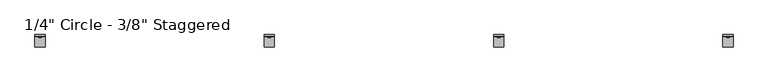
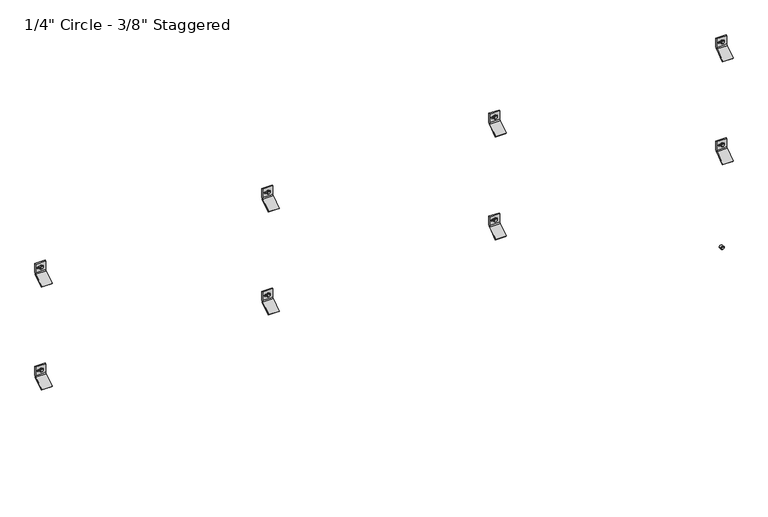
"""IFC4 building model written with IfcOpenShell, lengths in millimetres: plate geometry."""

from ifc_helpers import new_model, si_unit, point, frame, frame_2d, origin, place, context, project, spatial, polyline, circle_curve, trimmed, segment, composite_curve, outline, extrude, source, transform, mapped, element, save
from ifc_brep_helpers import plane_surface, cylinder_surface, revolved_surface, advanced_brep


def plate_bebbbf79(model_context):
    return source(origin(), model_context, "Body", "SolidModel", [
        extrude(outline(polyline([(1395.4295323, 1273.4858014), (1391.0838197, 1275.9947997), (1391.0838197, 1281.0127963), (1395.4295323, 1283.5217946), (1399.7752448, 1281.0127963), (1399.7752448, 1275.9947997), (1395.4295323, 1273.4858014)])), frame((0.0, -58.7607779, 0.0), z_axis=(0.0, 1.0, 0.0), x_axis=(0.0, 0.0, 1.0)), (0.0, 0.0, 1.0), 11.1357779),
        extrude(outline(composite_curve([segment(trimmed(circle_curve(frame_2d((1395.5228392, 1278.503798)), 6.35), [point((1395.5228392, 1284.853798))], [point((1395.5228392, 1272.153798))], False, "CARTESIAN"), True, "CONTINUOUS"), segment(trimmed(circle_curve(frame_2d((1395.5228392, 1278.503798)), 6.35), [point((1395.5228392, 1272.153798))], [point((1395.5228392, 1284.853798))], False, "CARTESIAN"), True, "CONTINUOUS")], self_intersect=False)), frame((0.0, -57.0817743, 0.0), z_axis=(0.0, 1.0, 0.0), x_axis=(0.0, 0.0, 1.0)), (0.0, 0.0, 1.0), 9.4567743),
        advanced_brep(
        [(1259.453798, -47.625, 1378.2802202), (1259.453798, -51.2819443, 1370.6181877), (1259.453798, -89.5163624, 1343.84616), (1259.453798, -92.9330442, 1347.2628418), (1259.453798, -54.3526876, 1374.2770983), (1259.453798, -52.4002, 1378.2802911), (1259.453798, -52.4002, 1412.4729053), (1259.453798, -47.625, 1412.4729053), (1297.553798, -47.625, 1378.2802202), (1297.553798, -47.625, 1412.4729053), (1297.553798, -52.4002, 1412.4729053), (1297.553798, -52.4002, 1378.2802911), (1297.553798, -54.3526876, 1374.2770983), (1297.553798, -92.9330442, 1347.2628418), (1297.553798, -89.5163624, 1343.84616), (1297.553798, -51.2819443, 1370.6181877), (1285.2449869, -52.4002, 1398.4276891), (1285.2449869, -52.4002, 1392.0776891), (1269.0171267, -52.4002, 1392.0776891), (1269.0171267, -52.4002, 1398.4276891), (1285.2449869, -47.625, 1392.0776891), (1285.2449869, -47.625, 1398.4276891), (1269.0171267, -47.625, 1398.4276891), (1269.0171267, -47.625, 1392.0776891)],
        [
            (0, 1, circle_curve(frame((1259.453798, -57.4802202, 1378.2802202), z_axis=(-1.0, 0.0, 0.0), x_axis=(0.0, -1.0, 0.0)), 9.8552202)),
            (1, 2),
            (2, 3),
            (3, 4),
            (4, 5, circle_curve(frame((1259.453798, -57.4803246, 1378.2802911), z_axis=(1.0, 0.0, 0.0), x_axis=(0.0, -1.0, 0.0)), 5.0801246)),
            (5, 6),
            (6, 7),
            (7, 0),
            (8, 9),
            (9, 10),
            (10, 11),
            (11, 12, circle_curve(frame((1297.553798, -57.4803246, 1378.2802911), z_axis=(-1.0, 0.0, 0.0), x_axis=(0.0, -1.0, 0.0)), 5.0801246)),
            (12, 13),
            (13, 14),
            (14, 15),
            (15, 8, circle_curve(frame((1297.553798, -57.4802202, 1378.2802202), z_axis=(1.0, 0.0, 0.0), x_axis=(0.0, -1.0, 0.0)), 9.8552202)),
            (4, 12),
            (11, 5),
            (10, 6),
            (16, 17, circle_curve(frame((1285.2449869, -52.4002, 1395.2526891), z_axis=(0.0, 1.0, 0.0), x_axis=(0.0, 0.0, -1.0)), 3.175)),
            (17, 18),
            (18, 19, circle_curve(frame((1269.0171267, -52.4002, 1395.2526891), z_axis=(0.0, 1.0, 0.0), x_axis=(0.0, 0.0, -1.0)), 3.175)),
            (19, 16),
            (9, 7),
            (8, 0),
            (20, 21, circle_curve(frame((1285.2449869, -47.625, 1395.2526891), z_axis=(0.0, -1.0, 0.0), x_axis=(0.0, 0.0, -1.0)), 3.175)),
            (21, 22),
            (22, 23, circle_curve(frame((1269.0171267, -47.625, 1395.2526891), z_axis=(0.0, -1.0, 0.0), x_axis=(0.0, 0.0, -1.0)), 3.175)),
            (23, 20),
            (15, 1),
            (20, 17),
            (16, 21),
            (19, 22),
            (18, 23),
            (14, 2),
            (13, 3),
        ],
        [
            plane_surface(frame((1259.453798, -67.3354404, 1378.2802202), z_axis=(-1.0, 0.0, 0.0), x_axis=(0.0, 0.0, 1.0))),
            plane_surface(frame((1297.553798, -67.3354404, 1378.2802202), z_axis=(1.0, 0.0, 0.0), x_axis=(0.0, 0.0, -1.0))),
            revolved_surface(polyline([(1297.553798, -62.5604492, 1378.2802911), (1259.453798, -62.5604492, 1378.2802911)]), (1297.553798, -57.4803246, 1378.2802911), (1.0, 0.0, 0.0)),
            plane_surface(frame((1259.453798, -52.4002, 1378.2802911), z_axis=(0.0, -1.0, 0.0), x_axis=(1.0, 0.0, 0.0))),
            plane_surface(frame((1259.453798, -52.4002, 1412.4729053), z_axis=(0.0, 0.0, 1.0), x_axis=(1.0, 0.0, 0.0))),
            plane_surface(frame((1259.453798, -47.625, 1412.4729053), z_axis=(0.0, 1.0, 6.99569853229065e-12), x_axis=(1.0, 0.0, 0.0))),
            cylinder_surface(frame((1297.553798, -57.4802202, 1378.2802202), z_axis=(-1.0, 0.0, 0.0), x_axis=(0.0, -1.0, 0.0)), 9.8552202),
            revolved_surface(polyline([(1285.2449869, -52.4002, 1392.0776891), (1285.2449869, -47.625, 1392.0776891)]), (1285.2449869, -25.6669948, 1395.2526891), (0.0, -1.0, 0.0)),
            plane_surface(frame((1285.2449869, -86.677982, 1398.4276891), z_axis=(0.0, 0.0, -1.0), x_axis=(0.0, 1.0, 0.0))),
            revolved_surface(polyline([(1269.0171267, -52.4002, 1392.0776891), (1269.0171267, -47.625, 1392.0776891)]), (1269.0171267, -25.6669948, 1395.2526891), (0.0, -1.0, 0.0)),
            plane_surface(frame((1269.0171267, -86.677982, 1392.0776891), z_axis=(-2.7237720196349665e-11, 0.0, 1.0), x_axis=(0.0, 1.0, 0.0))),
            plane_surface(frame((1259.453798, -51.2819443, 1370.6181877), z_axis=(0.0, 0.5735764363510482, -0.8191520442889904), x_axis=(1.0, 0.0, 0.0))),
            plane_surface(frame((1259.453798, -89.5163624, 1343.84616), z_axis=(0.0, -0.7071067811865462, -0.7071067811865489), x_axis=(1.0, 0.0, 0.0))),
            plane_surface(frame((1259.453798, -92.9330442, 1347.2628418), z_axis=(0.0, -0.5735764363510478, 0.8191520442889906), x_axis=(1.0, 0.0, 0.0))),
        ],
        [
            (0, [[1, 2, 3, 4, 5, 6, 7, 8]]),
            (1, [[9, 10, 11, 12, 13, 14, 15, 16]]),
            (2, [[-5, 17, -12, 18]]),
            (3, [[-6, -18, -11, 19], [20, 21, 22, 23]]),
            (4, [[-7, -19, -10, 24]]),
            (5, [[-8, -24, -9, 25], [26, 27, 28, 29]]),
            (6, [[-1, -25, -16, 30]]),
            (7, [[31, -20, 32, -26]]),
            (8, [[-32, -23, 33, -27]]),
            (9, [[-33, -22, 34, -28]]),
            (10, [[-31, -29, -34, -21]]),
            (11, [[-2, -30, -15, 35]]),
            (12, [[-3, -35, -14, 36]]),
            (13, [[-4, -36, -13, -17]]),
        ],
    ),
        extrude(outline(polyline([(1395.4295323, 421.1499361), (1391.0838197, 423.6589344), (1391.0838197, 428.676931), (1395.4295323, 431.1859292), (1399.7752448, 428.676931), (1399.7752448, 423.6589344), (1395.4295323, 421.1499361)])), frame((0.0, -58.7607779, 0.0), z_axis=(0.0, 1.0, 0.0), x_axis=(0.0, 0.0, 1.0)), (0.0, 0.0, 1.0), 11.1357779),
        extrude(outline(composite_curve([segment(trimmed(circle_curve(frame_2d((1395.5228392, 426.1679327)), 6.35), [point((1395.5228392, 432.5179327))], [point((1395.5228392, 419.8179327))], False, "CARTESIAN"), True, "CONTINUOUS"), segment(trimmed(circle_curve(frame_2d((1395.5228392, 426.1679327)), 6.35), [point((1395.5228392, 419.8179327))], [point((1395.5228392, 432.5179327))], False, "CARTESIAN"), True, "CONTINUOUS")], self_intersect=False)), frame((0.0, -57.0817743, 0.0), z_axis=(0.0, 1.0, 0.0), x_axis=(0.0, 0.0, 1.0)), (0.0, 0.0, 1.0), 9.4567743),
        advanced_brep(
        [(407.1179327, -47.625, 1378.2802202), (407.1179327, -51.2819443, 1370.6181877), (407.1179327, -89.5163624, 1343.84616), (407.1179327, -92.9330442, 1347.2628418), (407.1179327, -54.3526876, 1374.2770983), (407.1179327, -52.4002, 1378.2802911), (407.1179327, -52.4002, 1412.4729053), (407.1179327, -47.625, 1412.4729053), (445.2179327, -47.625, 1378.2802202), (445.2179327, -47.625, 1412.4729053), (445.2179327, -52.4002, 1412.4729053), (445.2179327, -52.4002, 1378.2802911), (445.2179327, -54.3526876, 1374.2770983), (445.2179327, -92.9330442, 1347.2628418), (445.2179327, -89.5163624, 1343.84616), (445.2179327, -51.2819443, 1370.6181877), (432.9091216, -52.4002, 1398.4276891), (432.9091216, -52.4002, 1392.0776891), (416.6812614, -52.4002, 1392.0776891), (416.6812614, -52.4002, 1398.4276891), (432.9091216, -47.625, 1392.0776891), (432.9091216, -47.625, 1398.4276891), (416.6812614, -47.625, 1398.4276891), (416.6812614, -47.625, 1392.0776891)],
        [
            (0, 1, circle_curve(frame((407.1179327, -57.4802202, 1378.2802202), z_axis=(-1.0, 0.0, 0.0), x_axis=(0.0, -1.0, 0.0)), 9.8552202)),
            (1, 2),
            (2, 3),
            (3, 4),
            (4, 5, circle_curve(frame((407.1179327, -57.4803246, 1378.2802911), z_axis=(1.0, 0.0, 0.0), x_axis=(0.0, -1.0, 0.0)), 5.0801246)),
            (5, 6),
            (6, 7),
            (7, 0),
            (8, 9),
            (9, 10),
            (10, 11),
            (11, 12, circle_curve(frame((445.2179327, -57.4803246, 1378.2802911), z_axis=(-1.0, 0.0, 0.0), x_axis=(0.0, -1.0, 0.0)), 5.0801246)),
            (12, 13),
            (13, 14),
            (14, 15),
            (15, 8, circle_curve(frame((445.2179327, -57.4802202, 1378.2802202), z_axis=(1.0, 0.0, 0.0), x_axis=(0.0, -1.0, 0.0)), 9.8552202)),
            (4, 12),
            (11, 5),
            (10, 6),
            (16, 17, circle_curve(frame((432.9091216, -52.4002, 1395.2526891), z_axis=(0.0, 1.0, 0.0), x_axis=(0.0, 0.0, -1.0)), 3.175)),
            (17, 18),
            (18, 19, circle_curve(frame((416.6812614, -52.4002, 1395.2526891), z_axis=(0.0, 1.0, 0.0), x_axis=(0.0, 0.0, -1.0)), 3.175)),
            (19, 16),
            (9, 7),
            (8, 0),
            (20, 21, circle_curve(frame((432.9091216, -47.625, 1395.2526891), z_axis=(0.0, -1.0, 0.0), x_axis=(0.0, 0.0, -1.0)), 3.175)),
            (21, 22),
            (22, 23, circle_curve(frame((416.6812614, -47.625, 1395.2526891), z_axis=(0.0, -1.0, 0.0), x_axis=(0.0, 0.0, -1.0)), 3.175)),
            (23, 20),
            (15, 1),
            (20, 17),
            (16, 21),
            (19, 22),
            (18, 23),
            (14, 2),
            (13, 3),
        ],
        [
            plane_surface(frame((407.1179327, -67.3354404, 1378.2802202), z_axis=(-1.0, 0.0, 0.0), x_axis=(0.0, 0.0, 1.0))),
            plane_surface(frame((445.2179327, -67.3354404, 1378.2802202), z_axis=(1.0, 0.0, 0.0), x_axis=(0.0, 0.0, -1.0))),
            revolved_surface(polyline([(445.2179327, -62.5604492, 1378.2802911), (407.1179327, -62.5604492, 1378.2802911)]), (445.2179327, -57.4803246, 1378.2802911), (1.0, 0.0, 0.0)),
            plane_surface(frame((407.1179327, -52.4002, 1378.2802911), z_axis=(0.0, -1.0, 0.0), x_axis=(1.0, 0.0, 0.0))),
            plane_surface(frame((407.1179327, -52.4002, 1412.4729053), z_axis=(0.0, 0.0, 1.0), x_axis=(1.0, 0.0, 0.0))),
            plane_surface(frame((407.1179327, -47.625, 1412.4729053), z_axis=(0.0, 1.0, 6.99569853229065e-12), x_axis=(1.0, 0.0, 0.0))),
            cylinder_surface(frame((445.2179327, -57.4802202, 1378.2802202), z_axis=(-1.0, 0.0, 0.0), x_axis=(0.0, -1.0, 0.0)), 9.8552202),
            revolved_surface(polyline([(432.9091216, -52.4002, 1392.0776891), (432.9091216, -47.625, 1392.0776891)]), (432.9091216, -25.6669948, 1395.2526891), (0.0, -1.0, 0.0)),
            plane_surface(frame((432.9091216, -86.677982, 1398.4276891), z_axis=(0.0, 0.0, -1.0), x_axis=(0.0, 1.0, 0.0))),
            revolved_surface(polyline([(416.6812614, -52.4002, 1392.0776891), (416.6812614, -47.625, 1392.0776891)]), (416.6812614, -25.6669948, 1395.2526891), (0.0, -1.0, 0.0)),
            plane_surface(frame((416.6812614, -86.677982, 1392.0776891), z_axis=(-2.7237720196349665e-11, 0.0, 1.0), x_axis=(0.0, 1.0, 0.0))),
            plane_surface(frame((407.1179327, -51.2819443, 1370.6181877), z_axis=(0.0, 0.5735764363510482, -0.8191520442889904), x_axis=(1.0, 0.0, 0.0))),
            plane_surface(frame((407.1179327, -89.5163624, 1343.84616), z_axis=(0.0, -0.7071067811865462, -0.7071067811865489), x_axis=(1.0, 0.0, 0.0))),
            plane_surface(frame((407.1179327, -92.9330442, 1347.2628418), z_axis=(0.0, -0.5735764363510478, 0.8191520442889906), x_axis=(1.0, 0.0, 0.0))),
        ],
        [
            (0, [[1, 2, 3, 4, 5, 6, 7, 8]]),
            (1, [[9, 10, 11, 12, 13, 14, 15, 16]]),
            (2, [[-5, 17, -12, 18]]),
            (3, [[-6, -18, -11, 19], [20, 21, 22, 23]]),
            (4, [[-7, -19, -10, 24]]),
            (5, [[-8, -24, -9, 25], [26, 27, 28, 29]]),
            (6, [[-1, -25, -16, 30]]),
            (7, [[31, -20, 32, -26]]),
            (8, [[-32, -23, 33, -27]]),
            (9, [[-33, -22, 34, -28]]),
            (10, [[-31, -29, -34, -21]]),
            (11, [[-2, -30, -15, 35]]),
            (12, [[-3, -35, -14, 36]]),
            (13, [[-4, -36, -13, -17]]),
        ],
    ),
        extrude(outline(polyline([(1395.4295323, -431.1859292), (1391.0838197, -428.676931), (1391.0838197, -423.6589344), (1395.4295323, -421.1499361), (1399.7752448, -423.6589344), (1399.7752448, -428.676931), (1395.4295323, -431.1859292)])), frame((0.0, -58.7607779, 0.0), z_axis=(0.0, 1.0, 0.0), x_axis=(0.0, 0.0, 1.0)), (0.0, 0.0, 1.0), 11.1357779),
        extrude(outline(composite_curve([segment(trimmed(circle_curve(frame_2d((1395.5228392, -426.1679327)), 6.35), [point((1395.5228392, -419.8179327))], [point((1395.5228392, -432.5179327))], False, "CARTESIAN"), True, "CONTINUOUS"), segment(trimmed(circle_curve(frame_2d((1395.5228392, -426.1679327)), 6.35), [point((1395.5228392, -432.5179327))], [point((1395.5228392, -419.8179327))], False, "CARTESIAN"), True, "CONTINUOUS")], self_intersect=False)), frame((0.0, -57.0817743, 0.0), z_axis=(0.0, 1.0, 0.0), x_axis=(0.0, 0.0, 1.0)), (0.0, 0.0, 1.0), 9.4567743),
        advanced_brep(
        [(-445.2179327, -47.625, 1378.2802202), (-445.2179327, -51.2819443, 1370.6181877), (-445.2179327, -89.5163624, 1343.84616), (-445.2179327, -92.9330442, 1347.2628418), (-445.2179327, -54.3526876, 1374.2770983), (-445.2179327, -52.4002, 1378.2802911), (-445.2179327, -52.4002, 1412.4729053), (-445.2179327, -47.625, 1412.4729053), (-407.1179327, -47.625, 1378.2802202), (-407.1179327, -47.625, 1412.4729053), (-407.1179327, -52.4002, 1412.4729053), (-407.1179327, -52.4002, 1378.2802911), (-407.1179327, -54.3526876, 1374.2770983), (-407.1179327, -92.9330442, 1347.2628418), (-407.1179327, -89.5163624, 1343.84616), (-407.1179327, -51.2819443, 1370.6181877), (-419.4267438, -52.4002, 1398.4276891), (-419.4267438, -52.4002, 1392.0776891), (-435.654604, -52.4002, 1392.0776891), (-435.654604, -52.4002, 1398.4276891), (-419.4267438, -47.625, 1392.0776891), (-419.4267438, -47.625, 1398.4276891), (-435.654604, -47.625, 1398.4276891), (-435.654604, -47.625, 1392.0776891)],
        [
            (0, 1, circle_curve(frame((-445.2179327, -57.4802202, 1378.2802202), z_axis=(-1.0, 0.0, 0.0), x_axis=(0.0, -1.0, 0.0)), 9.8552202)),
            (1, 2),
            (2, 3),
            (3, 4),
            (4, 5, circle_curve(frame((-445.2179327, -57.4803246, 1378.2802911), z_axis=(1.0, 0.0, 0.0), x_axis=(0.0, -1.0, 0.0)), 5.0801246)),
            (5, 6),
            (6, 7),
            (7, 0),
            (8, 9),
            (9, 10),
            (10, 11),
            (11, 12, circle_curve(frame((-407.1179327, -57.4803246, 1378.2802911), z_axis=(-1.0, 0.0, 0.0), x_axis=(0.0, -1.0, 0.0)), 5.0801246)),
            (12, 13),
            (13, 14),
            (14, 15),
            (15, 8, circle_curve(frame((-407.1179327, -57.4802202, 1378.2802202), z_axis=(1.0, 0.0, 0.0), x_axis=(0.0, -1.0, 0.0)), 9.8552202)),
            (4, 12),
            (11, 5),
            (10, 6),
            (16, 17, circle_curve(frame((-419.4267438, -52.4002, 1395.2526891), z_axis=(0.0, 1.0, 0.0), x_axis=(0.0, 0.0, -1.0)), 3.175)),
            (17, 18),
            (18, 19, circle_curve(frame((-435.654604, -52.4002, 1395.2526891), z_axis=(0.0, 1.0, 0.0), x_axis=(0.0, 0.0, -1.0)), 3.175)),
            (19, 16),
            (9, 7),
            (8, 0),
            (20, 21, circle_curve(frame((-419.4267438, -47.625, 1395.2526891), z_axis=(0.0, -1.0, 0.0), x_axis=(0.0, 0.0, -1.0)), 3.175)),
            (21, 22),
            (22, 23, circle_curve(frame((-435.654604, -47.625, 1395.2526891), z_axis=(0.0, -1.0, 0.0), x_axis=(0.0, 0.0, -1.0)), 3.175)),
            (23, 20),
            (15, 1),
            (20, 17),
            (16, 21),
            (19, 22),
            (18, 23),
            (14, 2),
            (13, 3),
        ],
        [
            plane_surface(frame((-445.2179327, -67.3354404, 1378.2802202), z_axis=(-1.0, 0.0, 0.0), x_axis=(0.0, 0.0, 1.0))),
            plane_surface(frame((-407.1179327, -67.3354404, 1378.2802202), z_axis=(1.0, 0.0, 0.0), x_axis=(0.0, 0.0, -1.0))),
            revolved_surface(polyline([(-407.1179327, -62.5604492, 1378.2802911), (-445.2179327, -62.5604492, 1378.2802911)]), (-407.1179327, -57.4803246, 1378.2802911), (1.0, 0.0, 0.0)),
            plane_surface(frame((-445.2179327, -52.4002, 1378.2802911), z_axis=(0.0, -1.0, 0.0), x_axis=(1.0, 0.0, 0.0))),
            plane_surface(frame((-445.2179327, -52.4002, 1412.4729053), z_axis=(0.0, 0.0, 1.0), x_axis=(1.0, 0.0, 0.0))),
            plane_surface(frame((-445.2179327, -47.625, 1412.4729053), z_axis=(0.0, 1.0, 6.99569853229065e-12), x_axis=(1.0, 0.0, 0.0))),
            cylinder_surface(frame((-407.1179327, -57.4802202, 1378.2802202), z_axis=(-1.0, 0.0, 0.0), x_axis=(0.0, -1.0, 0.0)), 9.8552202),
            revolved_surface(polyline([(-419.4267438, -52.4002, 1392.0776891), (-419.4267438, -47.625, 1392.0776891)]), (-419.4267438, -25.6669948, 1395.2526891), (0.0, -1.0, 0.0)),
            plane_surface(frame((-419.4267438, -86.677982, 1398.4276891), z_axis=(0.0, 0.0, -1.0), x_axis=(0.0, 1.0, 0.0))),
            revolved_surface(polyline([(-435.654604, -52.4002, 1392.0776891), (-435.654604, -47.625, 1392.0776891)]), (-435.654604, -25.6669948, 1395.2526891), (0.0, -1.0, 0.0)),
            plane_surface(frame((-435.654604, -86.677982, 1392.0776891), z_axis=(-2.7237720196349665e-11, 0.0, 1.0), x_axis=(0.0, 1.0, 0.0))),
            plane_surface(frame((-445.2179327, -51.2819443, 1370.6181877), z_axis=(0.0, 0.5735764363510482, -0.8191520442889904), x_axis=(1.0, 0.0, 0.0))),
            plane_surface(frame((-445.2179327, -89.5163624, 1343.84616), z_axis=(0.0, -0.7071067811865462, -0.7071067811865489), x_axis=(1.0, 0.0, 0.0))),
            plane_surface(frame((-445.2179327, -92.9330442, 1347.2628418), z_axis=(0.0, -0.5735764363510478, 0.8191520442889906), x_axis=(1.0, 0.0, 0.0))),
        ],
        [
            (0, [[1, 2, 3, 4, 5, 6, 7, 8]]),
            (1, [[9, 10, 11, 12, 13, 14, 15, 16]]),
            (2, [[-5, 17, -12, 18]]),
            (3, [[-6, -18, -11, 19], [20, 21, 22, 23]]),
            (4, [[-7, -19, -10, 24]]),
            (5, [[-8, -24, -9, 25], [26, 27, 28, 29]]),
            (6, [[-1, -25, -16, 30]]),
            (7, [[31, -20, 32, -26]]),
            (8, [[-32, -23, 33, -27]]),
            (9, [[-33, -22, 34, -28]]),
            (10, [[-31, -29, -34, -21]]),
            (11, [[-2, -30, -15, 35]]),
            (12, [[-3, -35, -14, 36]]),
            (13, [[-4, -36, -13, -17]]),
        ],
    ),
        extrude(outline(polyline([(1395.4295323, -1283.5217946), (1391.0838197, -1281.0127963), (1391.0838197, -1275.9947997), (1395.4295323, -1273.4858014), (1399.7752448, -1275.9947997), (1399.7752448, -1281.0127963), (1395.4295323, -1283.5217946)])), frame((0.0, -58.7607779, 0.0), z_axis=(0.0, 1.0, 0.0), x_axis=(0.0, 0.0, 1.0)), (0.0, 0.0, 1.0), 11.1357779),
        extrude(outline(composite_curve([segment(trimmed(circle_curve(frame_2d((1395.5228392, -1278.503798)), 6.35), [point((1395.5228392, -1272.153798))], [point((1395.5228392, -1284.853798))], False, "CARTESIAN"), True, "CONTINUOUS"), segment(trimmed(circle_curve(frame_2d((1395.5228392, -1278.503798)), 6.35), [point((1395.5228392, -1284.853798))], [point((1395.5228392, -1272.153798))], False, "CARTESIAN"), True, "CONTINUOUS")], self_intersect=False)), frame((0.0, -57.0817743, 0.0), z_axis=(0.0, 1.0, 0.0), x_axis=(0.0, 0.0, 1.0)), (0.0, 0.0, 1.0), 9.4567743),
        advanced_brep(
        [(-1297.553798, -47.625, 1378.2802202), (-1297.553798, -51.2819443, 1370.6181877), (-1297.553798, -89.5163624, 1343.84616), (-1297.553798, -92.9330442, 1347.2628418), (-1297.553798, -54.3526876, 1374.2770983), (-1297.553798, -52.4002, 1378.2802911), (-1297.553798, -52.4002, 1412.4729053), (-1297.553798, -47.625, 1412.4729053), (-1259.453798, -47.625, 1378.2802202), (-1259.453798, -47.625, 1412.4729053), (-1259.453798, -52.4002, 1412.4729053), (-1259.453798, -52.4002, 1378.2802911), (-1259.453798, -54.3526876, 1374.2770983), (-1259.453798, -92.9330442, 1347.2628418), (-1259.453798, -89.5163624, 1343.84616), (-1259.453798, -51.2819443, 1370.6181877), (-1271.7626091, -52.4002, 1398.4276891), (-1271.7626091, -52.4002, 1392.0776891), (-1287.9904693, -52.4002, 1392.0776891), (-1287.9904693, -52.4002, 1398.4276891), (-1271.7626091, -47.625, 1392.0776891), (-1271.7626091, -47.625, 1398.4276891), (-1287.9904693, -47.625, 1398.4276891), (-1287.9904693, -47.625, 1392.0776891)],
        [
            (0, 1, circle_curve(frame((-1297.553798, -57.4802202, 1378.2802202), z_axis=(-1.0, 0.0, 0.0), x_axis=(0.0, -1.0, 0.0)), 9.8552202)),
            (1, 2),
            (2, 3),
            (3, 4),
            (4, 5, circle_curve(frame((-1297.553798, -57.4803246, 1378.2802911), z_axis=(1.0, 0.0, 0.0), x_axis=(0.0, -1.0, 0.0)), 5.0801246)),
            (5, 6),
            (6, 7),
            (7, 0),
            (8, 9),
            (9, 10),
            (10, 11),
            (11, 12, circle_curve(frame((-1259.453798, -57.4803246, 1378.2802911), z_axis=(-1.0, 0.0, 0.0), x_axis=(0.0, -1.0, 0.0)), 5.0801246)),
            (12, 13),
            (13, 14),
            (14, 15),
            (15, 8, circle_curve(frame((-1259.453798, -57.4802202, 1378.2802202), z_axis=(1.0, 0.0, 0.0), x_axis=(0.0, -1.0, 0.0)), 9.8552202)),
            (4, 12),
            (11, 5),
            (10, 6),
            (16, 17, circle_curve(frame((-1271.7626091, -52.4002, 1395.2526891), z_axis=(0.0, 1.0, 0.0), x_axis=(0.0, 0.0, -1.0)), 3.175)),
            (17, 18),
            (18, 19, circle_curve(frame((-1287.9904693, -52.4002, 1395.2526891), z_axis=(0.0, 1.0, 0.0), x_axis=(0.0, 0.0, -1.0)), 3.175)),
            (19, 16),
            (9, 7),
            (8, 0),
            (20, 21, circle_curve(frame((-1271.7626091, -47.625, 1395.2526891), z_axis=(0.0, -1.0, 0.0), x_axis=(0.0, 0.0, -1.0)), 3.175)),
            (21, 22),
            (22, 23, circle_curve(frame((-1287.9904693, -47.625, 1395.2526891), z_axis=(0.0, -1.0, 0.0), x_axis=(0.0, 0.0, -1.0)), 3.175)),
            (23, 20),
            (15, 1),
            (20, 17),
            (16, 21),
            (19, 22),
            (18, 23),
            (14, 2),
            (13, 3),
        ],
        [
            plane_surface(frame((-1297.553798, -67.3354404, 1378.2802202), z_axis=(-1.0, 0.0, 0.0), x_axis=(0.0, 0.0, 1.0))),
            plane_surface(frame((-1259.453798, -67.3354404, 1378.2802202), z_axis=(1.0, 0.0, 0.0), x_axis=(0.0, 0.0, -1.0))),
            revolved_surface(polyline([(-1259.453798, -62.5604492, 1378.2802911), (-1297.553798, -62.5604492, 1378.2802911)]), (-1259.453798, -57.4803246, 1378.2802911), (1.0, 0.0, 0.0)),
            plane_surface(frame((-1297.553798, -52.4002, 1378.2802911), z_axis=(0.0, -1.0, 0.0), x_axis=(1.0, 0.0, 0.0))),
            plane_surface(frame((-1297.553798, -52.4002, 1412.4729053), z_axis=(0.0, 0.0, 1.0), x_axis=(1.0, 0.0, 0.0))),
            plane_surface(frame((-1297.553798, -47.625, 1412.4729053), z_axis=(0.0, 1.0, 6.99569853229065e-12), x_axis=(1.0, 0.0, 0.0))),
            cylinder_surface(frame((-1259.453798, -57.4802202, 1378.2802202), z_axis=(-1.0, 0.0, 0.0), x_axis=(0.0, -1.0, 0.0)), 9.8552202),
            revolved_surface(polyline([(-1271.7626091, -52.4002, 1392.0776891), (-1271.7626091, -47.625, 1392.0776891)]), (-1271.7626091, -25.6669948, 1395.2526891), (0.0, -1.0, 0.0)),
            plane_surface(frame((-1271.7626091, -86.677982, 1398.4276891), z_axis=(0.0, 0.0, -1.0), x_axis=(0.0, 1.0, 0.0))),
            revolved_surface(polyline([(-1287.9904693, -52.4002, 1392.0776891), (-1287.9904693, -47.625, 1392.0776891)]), (-1287.9904693, -25.6669948, 1395.2526891), (0.0, -1.0, 0.0)),
            plane_surface(frame((-1287.9904693, -86.677982, 1392.0776891), z_axis=(-2.7237720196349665e-11, 0.0, 1.0), x_axis=(0.0, 1.0, 0.0))),
            plane_surface(frame((-1297.553798, -51.2819443, 1370.6181877), z_axis=(0.0, 0.5735764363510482, -0.8191520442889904), x_axis=(1.0, 0.0, 0.0))),
            plane_surface(frame((-1297.553798, -89.5163624, 1343.84616), z_axis=(0.0, -0.7071067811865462, -0.7071067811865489), x_axis=(1.0, 0.0, 0.0))),
            plane_surface(frame((-1297.553798, -92.9330442, 1347.2628418), z_axis=(0.0, -0.5735764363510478, 0.8191520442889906), x_axis=(1.0, 0.0, 0.0))),
        ],
        [
            (0, [[1, 2, 3, 4, 5, 6, 7, 8]]),
            (1, [[9, 10, 11, 12, 13, 14, 15, 16]]),
            (2, [[-5, 17, -12, 18]]),
            (3, [[-6, -18, -11, 19], [20, 21, 22, 23]]),
            (4, [[-7, -19, -10, 24]]),
            (5, [[-8, -24, -9, 25], [26, 27, 28, 29]]),
            (6, [[-1, -25, -16, 30]]),
            (7, [[31, -20, 32, -26]]),
            (8, [[-32, -23, 33, -27]]),
            (9, [[-33, -22, 34, -28]]),
            (10, [[-31, -29, -34, -21]]),
            (11, [[-2, -30, -15, 35]]),
            (12, [[-3, -35, -14, 36]]),
            (13, [[-4, -36, -13, -17]]),
        ],
    ),
        extrude(outline(polyline([(986.9128656, 1273.4858014), (982.5671531, 1275.9947997), (982.5671531, 1281.0127963), (986.9128656, 1283.5217946), (991.2585781, 1281.0127963), (991.2585781, 1275.9947997), (986.9128656, 1273.4858014)])), frame((0.0, -58.7607779, 0.0), z_axis=(0.0, 1.0, 0.0), x_axis=(0.0, 0.0, 1.0)), (0.0, 0.0, 1.0), 11.1357779),
        extrude(outline(composite_curve([segment(trimmed(circle_curve(frame_2d((987.0061726, 1278.503798)), 6.35), [point((987.0061726, 1284.853798))], [point((987.0061726, 1272.153798))], False, "CARTESIAN"), True, "CONTINUOUS"), segment(trimmed(circle_curve(frame_2d((987.0061726, 1278.503798)), 6.35), [point((987.0061726, 1272.153798))], [point((987.0061726, 1284.853798))], False, "CARTESIAN"), True, "CONTINUOUS")], self_intersect=False)), frame((0.0, -57.0817743, 0.0), z_axis=(0.0, 1.0, 0.0), x_axis=(0.0, 0.0, 1.0)), (0.0, 0.0, 1.0), 9.4567743),
        advanced_brep(
        [(1259.453798, -47.625, 969.7635535), (1259.453798, -51.2819443, 962.1015211), (1259.453798, -89.5163624, 935.3294933), (1259.453798, -92.9330442, 938.7461751), (1259.453798, -54.3526876, 965.7604316), (1259.453798, -52.4002, 969.7636244), (1259.453798, -52.4002, 1003.9562386), (1259.453798, -47.625, 1003.9562386), (1297.553798, -47.625, 969.7635535), (1297.553798, -47.625, 1003.9562386), (1297.553798, -52.4002, 1003.9562386), (1297.553798, -52.4002, 969.7636244), (1297.553798, -54.3526876, 965.7604316), (1297.553798, -92.9330442, 938.7461751), (1297.553798, -89.5163624, 935.3294933), (1297.553798, -51.2819443, 962.1015211), (1285.2449869, -52.4002, 989.9110224), (1285.2449869, -52.4002, 983.5610224), (1269.0171267, -52.4002, 983.5610224), (1269.0171267, -52.4002, 989.9110224), (1285.2449869, -47.625, 983.5610224), (1285.2449869, -47.625, 989.9110224), (1269.0171267, -47.625, 989.9110224), (1269.0171267, -47.625, 983.5610224)],
        [
            (0, 1, circle_curve(frame((1259.453798, -57.4802202, 969.7635535), z_axis=(-1.0, 0.0, 0.0), x_axis=(0.0, -1.0, 0.0)), 9.8552202)),
            (1, 2),
            (2, 3),
            (3, 4),
            (4, 5, circle_curve(frame((1259.453798, -57.4803246, 969.7636244), z_axis=(1.0, 0.0, 0.0), x_axis=(0.0, -1.0, 0.0)), 5.0801246)),
            (5, 6),
            (6, 7),
            (7, 0),
            (8, 9),
            (9, 10),
            (10, 11),
            (11, 12, circle_curve(frame((1297.553798, -57.4803246, 969.7636244), z_axis=(-1.0, 0.0, 0.0), x_axis=(0.0, -1.0, 0.0)), 5.0801246)),
            (12, 13),
            (13, 14),
            (14, 15),
            (15, 8, circle_curve(frame((1297.553798, -57.4802202, 969.7635535), z_axis=(1.0, 0.0, 0.0), x_axis=(0.0, -1.0, 0.0)), 9.8552202)),
            (4, 12),
            (11, 5),
            (10, 6),
            (16, 17, circle_curve(frame((1285.2449869, -52.4002, 986.7360224), z_axis=(0.0, 1.0, 0.0), x_axis=(0.0, 0.0, -1.0)), 3.175)),
            (17, 18),
            (18, 19, circle_curve(frame((1269.0171267, -52.4002, 986.7360224), z_axis=(0.0, 1.0, 0.0), x_axis=(0.0, 0.0, -1.0)), 3.175)),
            (19, 16),
            (9, 7),
            (8, 0),
            (20, 21, circle_curve(frame((1285.2449869, -47.625, 986.7360224), z_axis=(0.0, -1.0, 0.0), x_axis=(0.0, 0.0, -1.0)), 3.175)),
            (21, 22),
            (22, 23, circle_curve(frame((1269.0171267, -47.625, 986.7360224), z_axis=(0.0, -1.0, 0.0), x_axis=(0.0, 0.0, -1.0)), 3.175)),
            (23, 20),
            (15, 1),
            (20, 17),
            (16, 21),
            (19, 22),
            (18, 23),
            (14, 2),
            (13, 3),
        ],
        [
            plane_surface(frame((1259.453798, -67.3354404, 969.7635535), z_axis=(-1.0, 0.0, 0.0), x_axis=(0.0, 0.0, 1.0))),
            plane_surface(frame((1297.553798, -67.3354404, 969.7635535), z_axis=(1.0, 0.0, 0.0), x_axis=(0.0, 0.0, -1.0))),
            revolved_surface(polyline([(1297.553798, -62.5604492, 969.7636244), (1259.453798, -62.5604492, 969.7636244)]), (1297.553798, -57.4803246, 969.7636244), (1.0, 0.0, 0.0)),
            plane_surface(frame((1259.453798, -52.4002, 969.7636244), z_axis=(0.0, -1.0, 0.0), x_axis=(1.0, 0.0, 0.0))),
            plane_surface(frame((1259.453798, -52.4002, 1003.9562386), z_axis=(0.0, 0.0, 1.0), x_axis=(1.0, 0.0, 0.0))),
            plane_surface(frame((1259.453798, -47.625, 1003.9562386), z_axis=(0.0, 1.0, 6.99569853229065e-12), x_axis=(1.0, 0.0, 0.0))),
            cylinder_surface(frame((1297.553798, -57.4802202, 969.7635535), z_axis=(-1.0, 0.0, 0.0), x_axis=(0.0, -1.0, 0.0)), 9.8552202),
            revolved_surface(polyline([(1285.2449869, -52.4002, 983.5610224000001), (1285.2449869, -47.625, 983.5610224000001)]), (1285.2449869, -25.6669948, 986.7360224), (0.0, -1.0, 0.0)),
            plane_surface(frame((1285.2449869, -86.677982, 989.9110224), z_axis=(0.0, 0.0, -1.0), x_axis=(0.0, 1.0, 0.0))),
            revolved_surface(polyline([(1269.0171267, -52.4002, 983.5610224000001), (1269.0171267, -47.625, 983.5610224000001)]), (1269.0171267, -25.6669948, 986.7360224), (0.0, -1.0, 0.0)),
            plane_surface(frame((1269.0171267, -86.677982, 983.5610224), z_axis=(-2.7237766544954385e-11, 0.0, 1.0), x_axis=(0.0, 1.0, 0.0))),
            plane_surface(frame((1259.453798, -51.2819443, 962.1015211), z_axis=(0.0, 0.5735764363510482, -0.8191520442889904), x_axis=(1.0, 0.0, 0.0))),
            plane_surface(frame((1259.453798, -89.5163624, 935.3294933), z_axis=(0.0, -0.7071067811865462, -0.7071067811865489), x_axis=(1.0, 0.0, 0.0))),
            plane_surface(frame((1259.453798, -92.9330442, 938.7461751), z_axis=(0.0, -0.5735764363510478, 0.8191520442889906), x_axis=(1.0, 0.0, 0.0))),
        ],
        [
            (0, [[1, 2, 3, 4, 5, 6, 7, 8]]),
            (1, [[9, 10, 11, 12, 13, 14, 15, 16]]),
            (2, [[-5, 17, -12, 18]]),
            (3, [[-6, -18, -11, 19], [20, 21, 22, 23]]),
            (4, [[-7, -19, -10, 24]]),
            (5, [[-8, -24, -9, 25], [26, 27, 28, 29]]),
            (6, [[-1, -25, -16, 30]]),
            (7, [[31, -20, 32, -26]]),
            (8, [[-32, -23, 33, -27]]),
            (9, [[-33, -22, 34, -28]]),
            (10, [[-31, -29, -34, -21]]),
            (11, [[-2, -30, -15, 35]]),
            (12, [[-3, -35, -14, 36]]),
            (13, [[-4, -36, -13, -17]]),
        ],
    ),
        extrude(outline(polyline([(986.9128656, 421.1499361), (982.5671531, 423.6589344), (982.5671531, 428.676931), (986.9128656, 431.1859292), (991.2585781, 428.676931), (991.2585781, 423.6589344), (986.9128656, 421.1499361)])), frame((0.0, -58.7607779, 0.0), z_axis=(0.0, 1.0, 0.0), x_axis=(0.0, 0.0, 1.0)), (0.0, 0.0, 1.0), 11.1357779),
        extrude(outline(composite_curve([segment(trimmed(circle_curve(frame_2d((987.0061726, 426.1679327)), 6.35), [point((987.0061726, 432.5179327))], [point((987.0061726, 419.8179327))], False, "CARTESIAN"), True, "CONTINUOUS"), segment(trimmed(circle_curve(frame_2d((987.0061726, 426.1679327)), 6.35), [point((987.0061726, 419.8179327))], [point((987.0061726, 432.5179327))], False, "CARTESIAN"), True, "CONTINUOUS")], self_intersect=False)), frame((0.0, -57.0817743, 0.0), z_axis=(0.0, 1.0, 0.0), x_axis=(0.0, 0.0, 1.0)), (0.0, 0.0, 1.0), 9.4567743),
        advanced_brep(
        [(407.1179327, -47.625, 969.7635535), (407.1179327, -51.2819443, 962.1015211), (407.1179327, -89.5163624, 935.3294933), (407.1179327, -92.9330442, 938.7461751), (407.1179327, -54.3526876, 965.7604316), (407.1179327, -52.4002, 969.7636244), (407.1179327, -52.4002, 1003.9562386), (407.1179327, -47.625, 1003.9562386), (445.2179327, -47.625, 969.7635535), (445.2179327, -47.625, 1003.9562386), (445.2179327, -52.4002, 1003.9562386), (445.2179327, -52.4002, 969.7636244), (445.2179327, -54.3526876, 965.7604316), (445.2179327, -92.9330442, 938.7461751), (445.2179327, -89.5163624, 935.3294933), (445.2179327, -51.2819443, 962.1015211), (432.9091216, -52.4002, 989.9110224), (432.9091216, -52.4002, 983.5610224), (416.6812614, -52.4002, 983.5610224), (416.6812614, -52.4002, 989.9110224), (432.9091216, -47.625, 983.5610224), (432.9091216, -47.625, 989.9110224), (416.6812614, -47.625, 989.9110224), (416.6812614, -47.625, 983.5610224)],
        [
            (0, 1, circle_curve(frame((407.1179327, -57.4802202, 969.7635535), z_axis=(-1.0, 0.0, 0.0), x_axis=(0.0, -1.0, 0.0)), 9.8552202)),
            (1, 2),
            (2, 3),
            (3, 4),
            (4, 5, circle_curve(frame((407.1179327, -57.4803246, 969.7636244), z_axis=(1.0, 0.0, 0.0), x_axis=(0.0, -1.0, 0.0)), 5.0801246)),
            (5, 6),
            (6, 7),
            (7, 0),
            (8, 9),
            (9, 10),
            (10, 11),
            (11, 12, circle_curve(frame((445.2179327, -57.4803246, 969.7636244), z_axis=(-1.0, 0.0, 0.0), x_axis=(0.0, -1.0, 0.0)), 5.0801246)),
            (12, 13),
            (13, 14),
            (14, 15),
            (15, 8, circle_curve(frame((445.2179327, -57.4802202, 969.7635535), z_axis=(1.0, 0.0, 0.0), x_axis=(0.0, -1.0, 0.0)), 9.8552202)),
            (4, 12),
            (11, 5),
            (10, 6),
            (16, 17, circle_curve(frame((432.9091216, -52.4002, 986.7360224), z_axis=(0.0, 1.0, 0.0), x_axis=(0.0, 0.0, -1.0)), 3.175)),
            (17, 18),
            (18, 19, circle_curve(frame((416.6812614, -52.4002, 986.7360224), z_axis=(0.0, 1.0, 0.0), x_axis=(0.0, 0.0, -1.0)), 3.175)),
            (19, 16),
            (9, 7),
            (8, 0),
            (20, 21, circle_curve(frame((432.9091216, -47.625, 986.7360224), z_axis=(0.0, -1.0, 0.0), x_axis=(0.0, 0.0, -1.0)), 3.175)),
            (21, 22),
            (22, 23, circle_curve(frame((416.6812614, -47.625, 986.7360224), z_axis=(0.0, -1.0, 0.0), x_axis=(0.0, 0.0, -1.0)), 3.175)),
            (23, 20),
            (15, 1),
            (20, 17),
            (16, 21),
            (19, 22),
            (18, 23),
            (14, 2),
            (13, 3),
        ],
        [
            plane_surface(frame((407.1179327, -67.3354404, 969.7635535), z_axis=(-1.0, 0.0, 0.0), x_axis=(0.0, 0.0, 1.0))),
            plane_surface(frame((445.2179327, -67.3354404, 969.7635535), z_axis=(1.0, 0.0, 0.0), x_axis=(0.0, 0.0, -1.0))),
            revolved_surface(polyline([(445.2179327, -62.5604492, 969.7636244), (407.1179327, -62.5604492, 969.7636244)]), (445.2179327, -57.4803246, 969.7636244), (1.0, 0.0, 0.0)),
            plane_surface(frame((407.1179327, -52.4002, 969.7636244), z_axis=(0.0, -1.0, 0.0), x_axis=(1.0, 0.0, 0.0))),
            plane_surface(frame((407.1179327, -52.4002, 1003.9562386), z_axis=(0.0, 0.0, 1.0), x_axis=(1.0, 0.0, 0.0))),
            plane_surface(frame((407.1179327, -47.625, 1003.9562386), z_axis=(0.0, 1.0, 6.99569853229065e-12), x_axis=(1.0, 0.0, 0.0))),
            cylinder_surface(frame((445.2179327, -57.4802202, 969.7635535), z_axis=(-1.0, 0.0, 0.0), x_axis=(0.0, -1.0, 0.0)), 9.8552202),
            revolved_surface(polyline([(432.9091216, -52.4002, 983.5610224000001), (432.9091216, -47.625, 983.5610224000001)]), (432.9091216, -25.6669948, 986.7360224), (0.0, -1.0, 0.0)),
            plane_surface(frame((432.9091216, -86.677982, 989.9110224), z_axis=(0.0, 0.0, -1.0), x_axis=(0.0, 1.0, 0.0))),
            revolved_surface(polyline([(416.6812614, -52.4002, 983.5610224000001), (416.6812614, -47.625, 983.5610224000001)]), (416.6812614, -25.6669948, 986.7360224), (0.0, -1.0, 0.0)),
            plane_surface(frame((416.6812614, -86.677982, 983.5610224), z_axis=(-2.7237766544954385e-11, 0.0, 1.0), x_axis=(0.0, 1.0, 0.0))),
            plane_surface(frame((407.1179327, -51.2819443, 962.1015211), z_axis=(0.0, 0.5735764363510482, -0.8191520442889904), x_axis=(1.0, 0.0, 0.0))),
            plane_surface(frame((407.1179327, -89.5163624, 935.3294933), z_axis=(0.0, -0.7071067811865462, -0.7071067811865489), x_axis=(1.0, 0.0, 0.0))),
            plane_surface(frame((407.1179327, -92.9330442, 938.7461751), z_axis=(0.0, -0.5735764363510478, 0.8191520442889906), x_axis=(1.0, 0.0, 0.0))),
        ],
        [
            (0, [[1, 2, 3, 4, 5, 6, 7, 8]]),
            (1, [[9, 10, 11, 12, 13, 14, 15, 16]]),
            (2, [[-5, 17, -12, 18]]),
            (3, [[-6, -18, -11, 19], [20, 21, 22, 23]]),
            (4, [[-7, -19, -10, 24]]),
            (5, [[-8, -24, -9, 25], [26, 27, 28, 29]]),
            (6, [[-1, -25, -16, 30]]),
            (7, [[31, -20, 32, -26]]),
            (8, [[-32, -23, 33, -27]]),
            (9, [[-33, -22, 34, -28]]),
            (10, [[-31, -29, -34, -21]]),
            (11, [[-2, -30, -15, 35]]),
            (12, [[-3, -35, -14, 36]]),
            (13, [[-4, -36, -13, -17]]),
        ],
    ),
        extrude(outline(polyline([(986.9128656, -431.1859292), (982.5671531, -428.676931), (982.5671531, -423.6589344), (986.9128656, -421.1499361), (991.2585781, -423.6589344), (991.2585781, -428.676931), (986.9128656, -431.1859292)])), frame((0.0, -58.7607779, 0.0), z_axis=(0.0, 1.0, 0.0), x_axis=(0.0, 0.0, 1.0)), (0.0, 0.0, 1.0), 11.1357779),
        extrude(outline(composite_curve([segment(trimmed(circle_curve(frame_2d((987.0061726, -426.1679327)), 6.35), [point((987.0061726, -419.8179327))], [point((987.0061726, -432.5179327))], False, "CARTESIAN"), True, "CONTINUOUS"), segment(trimmed(circle_curve(frame_2d((987.0061726, -426.1679327)), 6.35), [point((987.0061726, -432.5179327))], [point((987.0061726, -419.8179327))], False, "CARTESIAN"), True, "CONTINUOUS")], self_intersect=False)), frame((0.0, -57.0817743, 0.0), z_axis=(0.0, 1.0, 0.0), x_axis=(0.0, 0.0, 1.0)), (0.0, 0.0, 1.0), 9.4567743),
        advanced_brep(
        [(-445.2179327, -47.625, 969.7635535), (-445.2179327, -51.2819443, 962.1015211), (-445.2179327, -89.5163624, 935.3294933), (-445.2179327, -92.9330442, 938.7461751), (-445.2179327, -54.3526876, 965.7604316), (-445.2179327, -52.4002, 969.7636244), (-445.2179327, -52.4002, 1003.9562386), (-445.2179327, -47.625, 1003.9562386), (-407.1179327, -47.625, 969.7635535), (-407.1179327, -47.625, 1003.9562386), (-407.1179327, -52.4002, 1003.9562386), (-407.1179327, -52.4002, 969.7636244), (-407.1179327, -54.3526876, 965.7604316), (-407.1179327, -92.9330442, 938.7461751), (-407.1179327, -89.5163624, 935.3294933), (-407.1179327, -51.2819443, 962.1015211), (-419.4267438, -52.4002, 989.9110224), (-419.4267438, -52.4002, 983.5610224), (-435.654604, -52.4002, 983.5610224), (-435.654604, -52.4002, 989.9110224), (-419.4267438, -47.625, 983.5610224), (-419.4267438, -47.625, 989.9110224), (-435.654604, -47.625, 989.9110224), (-435.654604, -47.625, 983.5610224)],
        [
            (0, 1, circle_curve(frame((-445.2179327, -57.4802202, 969.7635535), z_axis=(-1.0, 0.0, 0.0), x_axis=(0.0, -1.0, 0.0)), 9.8552202)),
            (1, 2),
            (2, 3),
            (3, 4),
            (4, 5, circle_curve(frame((-445.2179327, -57.4803246, 969.7636244), z_axis=(1.0, 0.0, 0.0), x_axis=(0.0, -1.0, 0.0)), 5.0801246)),
            (5, 6),
            (6, 7),
            (7, 0),
            (8, 9),
            (9, 10),
            (10, 11),
            (11, 12, circle_curve(frame((-407.1179327, -57.4803246, 969.7636244), z_axis=(-1.0, 0.0, 0.0), x_axis=(0.0, -1.0, 0.0)), 5.0801246)),
            (12, 13),
            (13, 14),
            (14, 15),
            (15, 8, circle_curve(frame((-407.1179327, -57.4802202, 969.7635535), z_axis=(1.0, 0.0, 0.0), x_axis=(0.0, -1.0, 0.0)), 9.8552202)),
            (4, 12),
            (11, 5),
            (10, 6),
            (16, 17, circle_curve(frame((-419.4267438, -52.4002, 986.7360224), z_axis=(0.0, 1.0, 0.0), x_axis=(0.0, 0.0, -1.0)), 3.175)),
            (17, 18),
            (18, 19, circle_curve(frame((-435.654604, -52.4002, 986.7360224), z_axis=(0.0, 1.0, 0.0), x_axis=(0.0, 0.0, -1.0)), 3.175)),
            (19, 16),
            (9, 7),
            (8, 0),
            (20, 21, circle_curve(frame((-419.4267438, -47.625, 986.7360224), z_axis=(0.0, -1.0, 0.0), x_axis=(0.0, 0.0, -1.0)), 3.175)),
            (21, 22),
            (22, 23, circle_curve(frame((-435.654604, -47.625, 986.7360224), z_axis=(0.0, -1.0, 0.0), x_axis=(0.0, 0.0, -1.0)), 3.175)),
            (23, 20),
            (15, 1),
            (20, 17),
            (16, 21),
            (19, 22),
            (18, 23),
            (14, 2),
            (13, 3),
        ],
        [
            plane_surface(frame((-445.2179327, -67.3354404, 969.7635535), z_axis=(-1.0, 0.0, 0.0), x_axis=(0.0, 0.0, 1.0))),
            plane_surface(frame((-407.1179327, -67.3354404, 969.7635535), z_axis=(1.0, 0.0, 0.0), x_axis=(0.0, 0.0, -1.0))),
            revolved_surface(polyline([(-407.1179327, -62.5604492, 969.7636244), (-445.2179327, -62.5604492, 969.7636244)]), (-407.1179327, -57.4803246, 969.7636244), (1.0, 0.0, 0.0)),
            plane_surface(frame((-445.2179327, -52.4002, 969.7636244), z_axis=(0.0, -1.0, 0.0), x_axis=(1.0, 0.0, 0.0))),
            plane_surface(frame((-445.2179327, -52.4002, 1003.9562386), z_axis=(0.0, 0.0, 1.0), x_axis=(1.0, 0.0, 0.0))),
            plane_surface(frame((-445.2179327, -47.625, 1003.9562386), z_axis=(0.0, 1.0, 6.99569853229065e-12), x_axis=(1.0, 0.0, 0.0))),
            cylinder_surface(frame((-407.1179327, -57.4802202, 969.7635535), z_axis=(-1.0, 0.0, 0.0), x_axis=(0.0, -1.0, 0.0)), 9.8552202),
            revolved_surface(polyline([(-419.4267438, -52.4002, 983.5610224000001), (-419.4267438, -47.625, 983.5610224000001)]), (-419.4267438, -25.6669948, 986.7360224), (0.0, -1.0, 0.0)),
            plane_surface(frame((-419.4267438, -86.677982, 989.9110224), z_axis=(0.0, 0.0, -1.0), x_axis=(0.0, 1.0, 0.0))),
            revolved_surface(polyline([(-435.654604, -52.4002, 983.5610224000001), (-435.654604, -47.625, 983.5610224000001)]), (-435.654604, -25.6669948, 986.7360224), (0.0, -1.0, 0.0)),
            plane_surface(frame((-435.654604, -86.677982, 983.5610224), z_axis=(-2.7237766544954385e-11, 0.0, 1.0), x_axis=(0.0, 1.0, 0.0))),
            plane_surface(frame((-445.2179327, -51.2819443, 962.1015211), z_axis=(0.0, 0.5735764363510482, -0.8191520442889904), x_axis=(1.0, 0.0, 0.0))),
            plane_surface(frame((-445.2179327, -89.5163624, 935.3294933), z_axis=(0.0, -0.7071067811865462, -0.7071067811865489), x_axis=(1.0, 0.0, 0.0))),
            plane_surface(frame((-445.2179327, -92.9330442, 938.7461751), z_axis=(0.0, -0.5735764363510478, 0.8191520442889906), x_axis=(1.0, 0.0, 0.0))),
        ],
        [
            (0, [[1, 2, 3, 4, 5, 6, 7, 8]]),
            (1, [[9, 10, 11, 12, 13, 14, 15, 16]]),
            (2, [[-5, 17, -12, 18]]),
            (3, [[-6, -18, -11, 19], [20, 21, 22, 23]]),
            (4, [[-7, -19, -10, 24]]),
            (5, [[-8, -24, -9, 25], [26, 27, 28, 29]]),
            (6, [[-1, -25, -16, 30]]),
            (7, [[31, -20, 32, -26]]),
            (8, [[-32, -23, 33, -27]]),
            (9, [[-33, -22, 34, -28]]),
            (10, [[-31, -29, -34, -21]]),
            (11, [[-2, -30, -15, 35]]),
            (12, [[-3, -35, -14, 36]]),
            (13, [[-4, -36, -13, -17]]),
        ],
    ),
        extrude(outline(polyline([(986.9128656, -1283.5217946), (982.5671531, -1281.0127963), (982.5671531, -1275.9947997), (986.9128656, -1273.4858014), (991.2585781, -1275.9947997), (991.2585781, -1281.0127963), (986.9128656, -1283.5217946)])), frame((0.0, -58.7607779, 0.0), z_axis=(0.0, 1.0, 0.0), x_axis=(0.0, 0.0, 1.0)), (0.0, 0.0, 1.0), 11.1357779),
        extrude(outline(composite_curve([segment(trimmed(circle_curve(frame_2d((987.0061726, -1278.503798)), 6.35), [point((987.0061726, -1272.153798))], [point((987.0061726, -1284.853798))], False, "CARTESIAN"), True, "CONTINUOUS"), segment(trimmed(circle_curve(frame_2d((987.0061726, -1278.503798)), 6.35), [point((987.0061726, -1284.853798))], [point((987.0061726, -1272.153798))], False, "CARTESIAN"), True, "CONTINUOUS")], self_intersect=False)), frame((0.0, -57.0817743, 0.0), z_axis=(0.0, 1.0, 0.0), x_axis=(0.0, 0.0, 1.0)), (0.0, 0.0, 1.0), 9.4567743),
        advanced_brep(
        [(-1297.553798, -47.625, 969.7635535), (-1297.553798, -51.2819443, 962.1015211), (-1297.553798, -89.5163624, 935.3294933), (-1297.553798, -92.9330442, 938.7461751), (-1297.553798, -54.3526876, 965.7604316), (-1297.553798, -52.4002, 969.7636244), (-1297.553798, -52.4002, 1003.9562386), (-1297.553798, -47.625, 1003.9562386), (-1259.453798, -47.625, 969.7635535), (-1259.453798, -47.625, 1003.9562386), (-1259.453798, -52.4002, 1003.9562386), (-1259.453798, -52.4002, 969.7636244), (-1259.453798, -54.3526876, 965.7604316), (-1259.453798, -92.9330442, 938.7461751), (-1259.453798, -89.5163624, 935.3294933), (-1259.453798, -51.2819443, 962.1015211), (-1271.7626091, -52.4002, 989.9110224), (-1271.7626091, -52.4002, 983.5610224), (-1287.9904693, -52.4002, 983.5610224), (-1287.9904693, -52.4002, 989.9110224), (-1271.7626091, -47.625, 983.5610224), (-1271.7626091, -47.625, 989.9110224), (-1287.9904693, -47.625, 989.9110224), (-1287.9904693, -47.625, 983.5610224)],
        [
            (0, 1, circle_curve(frame((-1297.553798, -57.4802202, 969.7635535), z_axis=(-1.0, 0.0, 0.0), x_axis=(0.0, -1.0, 0.0)), 9.8552202)),
            (1, 2),
            (2, 3),
            (3, 4),
            (4, 5, circle_curve(frame((-1297.553798, -57.4803246, 969.7636244), z_axis=(1.0, 0.0, 0.0), x_axis=(0.0, -1.0, 0.0)), 5.0801246)),
            (5, 6),
            (6, 7),
            (7, 0),
            (8, 9),
            (9, 10),
            (10, 11),
            (11, 12, circle_curve(frame((-1259.453798, -57.4803246, 969.7636244), z_axis=(-1.0, 0.0, 0.0), x_axis=(0.0, -1.0, 0.0)), 5.0801246)),
            (12, 13),
            (13, 14),
            (14, 15),
            (15, 8, circle_curve(frame((-1259.453798, -57.4802202, 969.7635535), z_axis=(1.0, 0.0, 0.0), x_axis=(0.0, -1.0, 0.0)), 9.8552202)),
            (4, 12),
            (11, 5),
            (10, 6),
            (16, 17, circle_curve(frame((-1271.7626091, -52.4002, 986.7360224), z_axis=(0.0, 1.0, 0.0), x_axis=(0.0, 0.0, -1.0)), 3.175)),
            (17, 18),
            (18, 19, circle_curve(frame((-1287.9904693, -52.4002, 986.7360224), z_axis=(0.0, 1.0, 0.0), x_axis=(0.0, 0.0, -1.0)), 3.175)),
            (19, 16),
            (9, 7),
            (8, 0),
            (20, 21, circle_curve(frame((-1271.7626091, -47.625, 986.7360224), z_axis=(0.0, -1.0, 0.0), x_axis=(0.0, 0.0, -1.0)), 3.175)),
            (21, 22),
            (22, 23, circle_curve(frame((-1287.9904693, -47.625, 986.7360224), z_axis=(0.0, -1.0, 0.0), x_axis=(0.0, 0.0, -1.0)), 3.175)),
            (23, 20),
            (15, 1),
            (20, 17),
            (16, 21),
            (19, 22),
            (18, 23),
            (14, 2),
            (13, 3),
        ],
        [
            plane_surface(frame((-1297.553798, -67.3354404, 969.7635535), z_axis=(-1.0, 0.0, 0.0), x_axis=(0.0, 0.0, 1.0))),
            plane_surface(frame((-1259.453798, -67.3354404, 969.7635535), z_axis=(1.0, 0.0, 0.0), x_axis=(0.0, 0.0, -1.0))),
            revolved_surface(polyline([(-1259.453798, -62.5604492, 969.7636244), (-1297.553798, -62.5604492, 969.7636244)]), (-1259.453798, -57.4803246, 969.7636244), (1.0, 0.0, 0.0)),
            plane_surface(frame((-1297.553798, -52.4002, 969.7636244), z_axis=(0.0, -1.0, 0.0), x_axis=(1.0, 0.0, 0.0))),
            plane_surface(frame((-1297.553798, -52.4002, 1003.9562386), z_axis=(0.0, 0.0, 1.0), x_axis=(1.0, 0.0, 0.0))),
            plane_surface(frame((-1297.553798, -47.625, 1003.9562386), z_axis=(0.0, 1.0, 6.99569853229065e-12), x_axis=(1.0, 0.0, 0.0))),
            cylinder_surface(frame((-1259.453798, -57.4802202, 969.7635535), z_axis=(-1.0, 0.0, 0.0), x_axis=(0.0, -1.0, 0.0)), 9.8552202),
            revolved_surface(polyline([(-1271.7626091, -52.4002, 983.5610224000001), (-1271.7626091, -47.625, 983.5610224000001)]), (-1271.7626091, -25.6669948, 986.7360224), (0.0, -1.0, 0.0)),
            plane_surface(frame((-1271.7626091, -86.677982, 989.9110224), z_axis=(0.0, 0.0, -1.0), x_axis=(0.0, 1.0, 0.0))),
            revolved_surface(polyline([(-1287.9904693, -52.4002, 983.5610224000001), (-1287.9904693, -47.625, 983.5610224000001)]), (-1287.9904693, -25.6669948, 986.7360224), (0.0, -1.0, 0.0)),
            plane_surface(frame((-1287.9904693, -86.677982, 983.5610224), z_axis=(-2.7237766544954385e-11, 0.0, 1.0), x_axis=(0.0, 1.0, 0.0))),
            plane_surface(frame((-1297.553798, -51.2819443, 962.1015211), z_axis=(0.0, 0.5735764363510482, -0.8191520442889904), x_axis=(1.0, 0.0, 0.0))),
            plane_surface(frame((-1297.553798, -89.5163624, 935.3294933), z_axis=(0.0, -0.7071067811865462, -0.7071067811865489), x_axis=(1.0, 0.0, 0.0))),
            plane_surface(frame((-1297.553798, -92.9330442, 938.7461751), z_axis=(0.0, -0.5735764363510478, 0.8191520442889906), x_axis=(1.0, 0.0, 0.0))),
        ],
        [
            (0, [[1, 2, 3, 4, 5, 6, 7, 8]]),
            (1, [[9, 10, 11, 12, 13, 14, 15, 16]]),
            (2, [[-5, 17, -12, 18]]),
            (3, [[-6, -18, -11, 19], [20, 21, 22, 23]]),
            (4, [[-7, -19, -10, 24]]),
            (5, [[-8, -24, -9, 25], [26, 27, 28, 29]]),
            (6, [[-1, -25, -16, 30]]),
            (7, [[31, -20, 32, -26]]),
            (8, [[-32, -23, 33, -27]]),
            (9, [[-33, -22, 34, -28]]),
            (10, [[-31, -29, -34, -21]]),
            (11, [[-2, -30, -15, 35]]),
            (12, [[-3, -35, -14, 36]]),
            (13, [[-4, -36, -13, -17]]),
        ],
    ),
        extrude(outline(polyline([(578.3961989, 1273.4858014), (574.0504864, 1275.9947997), (574.0504864, 1281.0127963), (578.3961989, 1283.5217946), (582.7419114, 1281.0127963), (582.7419114, 1275.9947997), (578.3961989, 1273.4858014)])), frame((0.0, -58.7607779, 0.0), z_axis=(0.0, 1.0, 0.0), x_axis=(0.0, 0.0, 1.0)), (0.0, 0.0, 1.0), 11.1357779),
        extrude(outline(composite_curve([segment(trimmed(circle_curve(frame_2d((578.4895059, 1278.503798)), 6.35), [point((578.4895059, 1284.853798))], [point((578.4895059, 1272.153798))], False, "CARTESIAN"), True, "CONTINUOUS"), segment(trimmed(circle_curve(frame_2d((578.4895059, 1278.503798)), 6.35), [point((578.4895059, 1272.153798))], [point((578.4895059, 1284.853798))], False, "CARTESIAN"), True, "CONTINUOUS")], self_intersect=False)), frame((0.0, -57.0817743, 0.0), z_axis=(0.0, 1.0, 0.0), x_axis=(0.0, 0.0, 1.0)), (0.0, 0.0, 1.0), 9.4567743),
    ])


if __name__ == "__main__":
    model = new_model("IFC4")
    model_context = context("Model", 3, world=origin())
    ifc_project = project(units=[si_unit("LENGTHUNIT", "METRE", prefix="MILLI")], contexts=[model_context])
    site = spatial("IfcSite", under=ifc_project)
    building = spatial("IfcBuilding", under=site)
    placement = place(None, origin())
    plate_shape = plate_bebbbf79(model_context)
    element("IfcPlate", 1, ObjectType="Single-Panel-Perforated-Amico_Architectural : 1/4\" Circle - 3/8\" Staggered", at=placement, inside=building, context=model_context, shape_type="MappedRepresentation", body=[
        mapped(plate_shape, transform((0.0, 0.0, 0.0), x_axis=(1.0, 0.0, 0.0), y_axis=(0.0, 1.0, 0.0), z_axis=(0.0, 0.0, 1.0))),
    ])
    save(model, "model.ifc")
